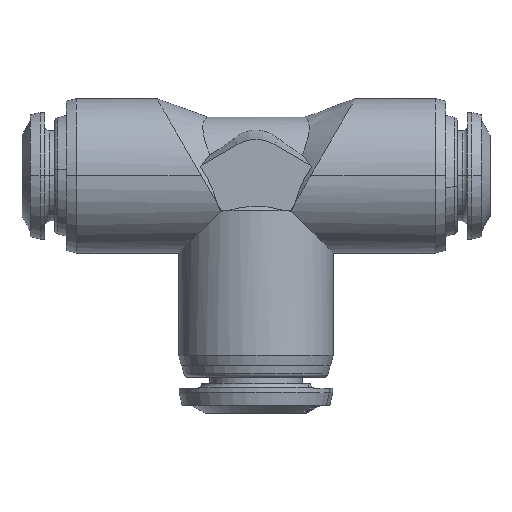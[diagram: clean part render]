
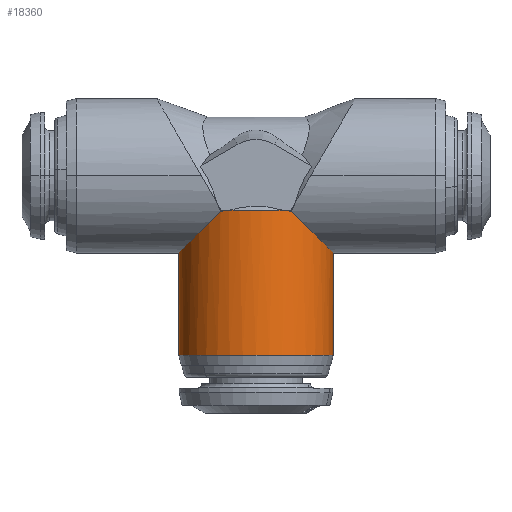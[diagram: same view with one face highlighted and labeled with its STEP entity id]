
A CAD part, top view. The second image highlights one B-rep face of the part: STEP entity #18360.
In plain terms, the highlighted cylindrical face has radius 8.55 mm (diameter 17.1 mm), a partial arc.
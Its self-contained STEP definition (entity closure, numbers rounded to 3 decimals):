
#692 = DIRECTION ( 'NONE',  ( 0., 1., 0. ) ) ;
#856 = FACE_OUTER_BOUND ( 'NONE', #6336, .T. ) ;
#1355 = CARTESIAN_POINT ( 'NONE',  ( 3.917, -3.932, 7.6 ) ) ;
#1357 = CARTESIAN_POINT ( 'NONE',  ( -3.617, -3.91, 7.754 ) ) ;
#1428 = ORIENTED_EDGE ( 'NONE', *, *, #11962, .F. ) ;
#1497 = CARTESIAN_POINT ( 'NONE',  ( 3.923, -3.923, 7.597 ) ) ;
#1699 = VERTEX_POINT ( 'NONE', #26494 ) ;
#2624 = VERTEX_POINT ( 'NONE', #6587 ) ;
#2734 = CARTESIAN_POINT ( 'NONE',  ( -8.55, -8.55, 3.284 ) ) ;
#3030 = CARTESIAN_POINT ( 'NONE',  ( 6.842, -6.842, 6.09 ) ) ;
#3256 = ORIENTED_EDGE ( 'NONE', *, *, #28564, .F. ) ;
#3461 = ORIENTED_EDGE ( 'NONE', *, *, #5194, .F. ) ;
#3498 = ORIENTED_EDGE ( 'NONE', *, *, #5720, .F. ) ;
#4467 = ORIENTED_EDGE ( 'NONE', *, *, #5155, .T. ) ;
#4939 = CARTESIAN_POINT ( 'NONE',  ( -3.905, -3.95, 7.606 ) ) ;
#5155 = EDGE_CURVE ( 'NONE', #16502, #16657, #5453, .T. ) ;
#5194 = EDGE_CURVE ( 'NONE', #8344, #1699, #8833, .T. ) ;
#5281 = CARTESIAN_POINT ( 'NONE',  ( 3.905, -3.95, 7.606 ) ) ;
#5408 = ORIENTED_EDGE ( 'NONE', *, *, #28850, .F. ) ;
#5453 = LINE ( 'NONE', #11000, #11987 ) ;
#5720 = EDGE_CURVE ( 'NONE', #21116, #26791, #20052, .T. ) ;
#6325 = LINE ( 'NONE', #15370, #12844 ) ;
#6336 = EDGE_LOOP ( 'NONE', ( #31065, #4467, #23036, #3498, #3256, #5408, #3461, #22013, #11709, #1428 ) ) ;
#6463 = CIRCLE ( 'NONE', #31642, 8.55 ) ;
#6587 = CARTESIAN_POINT ( 'NONE',  ( -8.55, -19.88, 0. ) ) ;
#6788 =( BOUNDED_CURVE ( )  B_SPLINE_CURVE ( 3, ( #23048, #3030, #27926, #13308 ),
 .UNSPECIFIED., .F., .F. ) 
 B_SPLINE_CURVE_WITH_KNOTS ( ( 4, 4 ),
 ( 2.048, 3.142 ),
 .UNSPECIFIED. ) 
 CURVE ( )  GEOMETRIC_REPRESENTATION_ITEM ( )  RATIONAL_B_SPLINE_CURVE ( ( 1., 0.903, 0.903, 1. ) ) 
 REPRESENTATION_ITEM ( '' )  );
#7887 = CARTESIAN_POINT ( 'NONE',  ( 3.905, -3.95, 7.606 ) ) ;
#8344 = VERTEX_POINT ( 'NONE', #4939 ) ;
#8760 = CARTESIAN_POINT ( 'NONE',  ( -3.017, -3.844, 8. ) ) ;
#8833 =( BOUNDED_CURVE ( )  B_SPLINE_CURVE ( 3, ( #18496, #1357, #23400, #8760 ),
 .UNSPECIFIED., .F., .T. ) 
 B_SPLINE_CURVE_WITH_KNOTS ( ( 4, 4 ),
 ( 5.809, 5.923 ),
 .UNSPECIFIED. ) 
 CURVE ( )  GEOMETRIC_REPRESENTATION_ITEM ( )  RATIONAL_B_SPLINE_CURVE ( ( 1., 0.999, 0.999, 1. ) ) 
 REPRESENTATION_ITEM ( '' )  );
#8919 = CARTESIAN_POINT ( 'NONE',  ( 0., -19.88, 0. ) ) ;
#10803 = VERTEX_POINT ( 'NONE', #26724 ) ;
#11000 = CARTESIAN_POINT ( 'NONE',  ( 8.55, 0., 0. ) ) ;
#11296 = CARTESIAN_POINT ( 'NONE',  ( 0., -3.844, 0. ) ) ;
#11367 = DIRECTION ( 'NONE',  ( -1., 0., 0. ) ) ;
#11709 = ORIENTED_EDGE ( 'NONE', *, *, #18206, .T. ) ;
#11962 = EDGE_CURVE ( 'NONE', #2624, #20977, #6325, .T. ) ;
#11987 = VECTOR ( 'NONE', #20663, 1000. ) ;
#12144 = CARTESIAN_POINT ( 'NONE',  ( -3.905, -3.95, 7.606 ) ) ;
#12844 = VECTOR ( 'NONE', #692, 1000. ) ;
#12947 = CIRCLE ( 'NONE', #25027, 8.55 ) ;
#13308 = CARTESIAN_POINT ( 'NONE',  ( 8.55, -8.55, 0. ) ) ;
#13576 = CARTESIAN_POINT ( 'NONE',  ( 3.911, -3.941, 7.603 ) ) ;
#13760 = DIRECTION ( 'NONE',  ( 1., 0., 0. ) ) ;
#14963 = CARTESIAN_POINT ( 'NONE',  ( -3.923, -3.923, 7.597 ) ) ;
#15176 = CARTESIAN_POINT ( 'NONE',  ( 3.32, -3.875, 7.886 ) ) ;
#15370 = CARTESIAN_POINT ( 'NONE',  ( -8.55, 0., 0. ) ) ;
#16038 = CARTESIAN_POINT ( 'NONE',  ( 3.905, -3.95, 7.606 ) ) ;
#16323 = CARTESIAN_POINT ( 'NONE',  ( 0., 0., 0. ) ) ;
#16486 =( BOUNDED_CURVE ( )  B_SPLINE_CURVE ( 3, ( #24339, #26570, #26779, #12144 ),
 .UNSPECIFIED., .F., .T. ) 
 B_SPLINE_CURVE_WITH_KNOTS ( ( 4, 4 ),
 ( 0.794, 0.796 ),
 .UNSPECIFIED. ) 
 CURVE ( )  GEOMETRIC_REPRESENTATION_ITEM ( )  RATIONAL_B_SPLINE_CURVE ( ( 1., 1., 1., 1. ) ) 
 REPRESENTATION_ITEM ( '' )  );
#16502 = VERTEX_POINT ( 'NONE', #28343 ) ;
#16657 = VERTEX_POINT ( 'NONE', #23758 ) ;
#18206 = EDGE_CURVE ( 'NONE', #26538, #20977, #24483, .T. ) ;
#18360 = ADVANCED_FACE ( 'NONE', ( #856 ), #23052, .T. ) ;
#18494 = CARTESIAN_POINT ( 'NONE',  ( 3.923, -3.923, 7.597 ) ) ;
#18496 = CARTESIAN_POINT ( 'NONE',  ( -3.905, -3.95, 7.606 ) ) ;
#18784 =( BOUNDED_CURVE ( )  B_SPLINE_CURVE ( 3, ( #24867, #15176, #22545, #7887 ),
 .UNSPECIFIED., .F., .F. ) 
 B_SPLINE_CURVE_WITH_KNOTS ( ( 4, 4 ),
 ( 0.361, 0.474 ),
 .UNSPECIFIED. ) 
 CURVE ( )  GEOMETRIC_REPRESENTATION_ITEM ( )  RATIONAL_B_SPLINE_CURVE ( ( 1., 0.999, 0.999, 1. ) ) 
 REPRESENTATION_ITEM ( '' )  );
#19262 = EDGE_CURVE ( 'NONE', #26538, #8344, #16486, .T. ) ;
#19895 = CARTESIAN_POINT ( 'NONE',  ( -8.55, -8.55, 0. ) ) ;
#20052 =( BOUNDED_CURVE ( )  B_SPLINE_CURVE ( 3, ( #16038, #13576, #1355, #18494 ),
 .UNSPECIFIED., .F., .T. ) 
 B_SPLINE_CURVE_WITH_KNOTS ( ( 4, 4 ),
 ( 5.487, 5.489 ),
 .UNSPECIFIED. ) 
 CURVE ( )  GEOMETRIC_REPRESENTATION_ITEM ( )  RATIONAL_B_SPLINE_CURVE ( ( 1., 1., 1., 1. ) ) 
 REPRESENTATION_ITEM ( '' )  );
#20625 = EDGE_CURVE ( 'NONE', #2624, #16502, #12947, .T. ) ;
#20663 = DIRECTION ( 'NONE',  ( 0., 1., 0. ) ) ;
#20977 = VERTEX_POINT ( 'NONE', #31280 ) ;
#21116 = VERTEX_POINT ( 'NONE', #5281 ) ;
#21349 = DIRECTION ( 'NONE',  ( -1., 0., 0. ) ) ;
#22013 = ORIENTED_EDGE ( 'NONE', *, *, #19262, .F. ) ;
#22387 = CARTESIAN_POINT ( 'NONE',  ( -3.923, -3.923, 7.597 ) ) ;
#22545 = CARTESIAN_POINT ( 'NONE',  ( 3.617, -3.91, 7.754 ) ) ;
#23036 = ORIENTED_EDGE ( 'NONE', *, *, #27590, .F. ) ;
#23048 = CARTESIAN_POINT ( 'NONE',  ( 3.923, -3.923, 7.597 ) ) ;
#23052 = CYLINDRICAL_SURFACE ( 'NONE', #30925, 8.55 ) ;
#23400 = CARTESIAN_POINT ( 'NONE',  ( -3.32, -3.875, 7.886 ) ) ;
#23758 = CARTESIAN_POINT ( 'NONE',  ( 8.55, -8.55, 0. ) ) ;
#24339 = CARTESIAN_POINT ( 'NONE',  ( -3.923, -3.923, 7.597 ) ) ;
#24483 =( BOUNDED_CURVE ( )  B_SPLINE_CURVE ( 3, ( #14963, #29591, #2734, #19895 ),
 .UNSPECIFIED., .F., .F. ) 
 B_SPLINE_CURVE_WITH_KNOTS ( ( 4, 4 ),
 ( 2.048, 3.142 ),
 .UNSPECIFIED. ) 
 CURVE ( )  GEOMETRIC_REPRESENTATION_ITEM ( )  RATIONAL_B_SPLINE_CURVE ( ( 1., 0.903, 0.903, 1. ) ) 
 REPRESENTATION_ITEM ( '' )  );
#24867 = CARTESIAN_POINT ( 'NONE',  ( 3.017, -3.844, 8. ) ) ;
#25027 = AXIS2_PLACEMENT_3D ( 'NONE', #8919, #25987, #11367 ) ;
#25987 = DIRECTION ( 'NONE',  ( 0., 1., 0. ) ) ;
#26494 = CARTESIAN_POINT ( 'NONE',  ( -3.017, -3.844, 8. ) ) ;
#26538 = VERTEX_POINT ( 'NONE', #22387 ) ;
#26570 = CARTESIAN_POINT ( 'NONE',  ( -3.917, -3.932, 7.6 ) ) ;
#26724 = CARTESIAN_POINT ( 'NONE',  ( 3.017, -3.844, 8. ) ) ;
#26779 = CARTESIAN_POINT ( 'NONE',  ( -3.911, -3.941, 7.603 ) ) ;
#26791 = VERTEX_POINT ( 'NONE', #1497 ) ;
#27590 = EDGE_CURVE ( 'NONE', #26791, #16657, #6788, .T. ) ;
#27926 = CARTESIAN_POINT ( 'NONE',  ( 8.55, -8.55, 3.284 ) ) ;
#28343 = CARTESIAN_POINT ( 'NONE',  ( 8.55, -19.88, 0. ) ) ;
#28378 = DIRECTION ( 'NONE',  ( 0., 1., 0. ) ) ;
#28564 = EDGE_CURVE ( 'NONE', #10803, #21116, #18784, .T. ) ;
#28850 = EDGE_CURVE ( 'NONE', #1699, #10803, #6463, .T. ) ;
#29591 = CARTESIAN_POINT ( 'NONE',  ( -6.842, -6.842, 6.09 ) ) ;
#30925 = AXIS2_PLACEMENT_3D ( 'NONE', #16323, #30933, #21349 ) ;
#30933 = DIRECTION ( 'NONE',  ( 0., 1., 0. ) ) ;
#31065 = ORIENTED_EDGE ( 'NONE', *, *, #20625, .T. ) ;
#31280 = CARTESIAN_POINT ( 'NONE',  ( -8.55, -8.55, 0. ) ) ;
#31642 = AXIS2_PLACEMENT_3D ( 'NONE', #11296, #28378, #13760 ) ;
